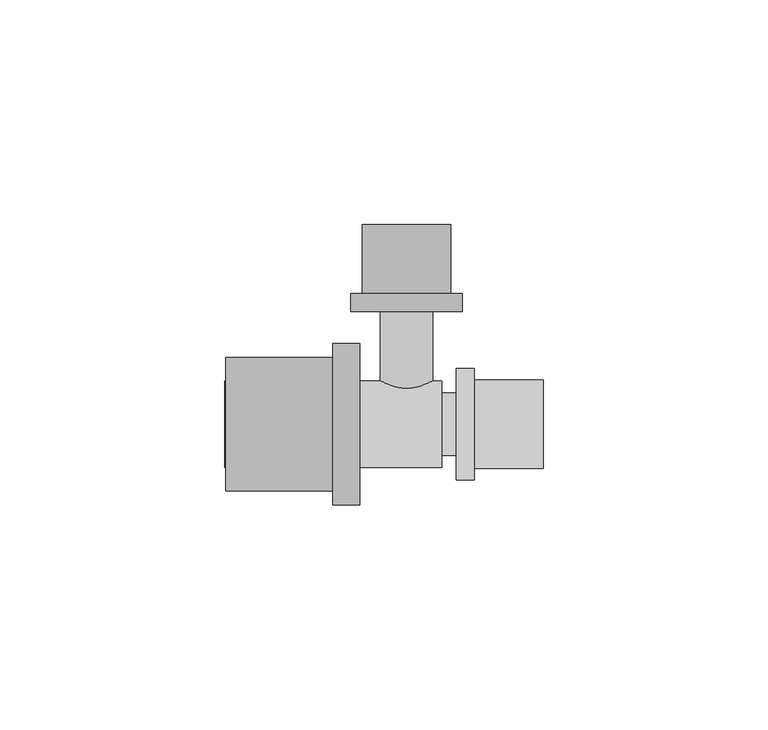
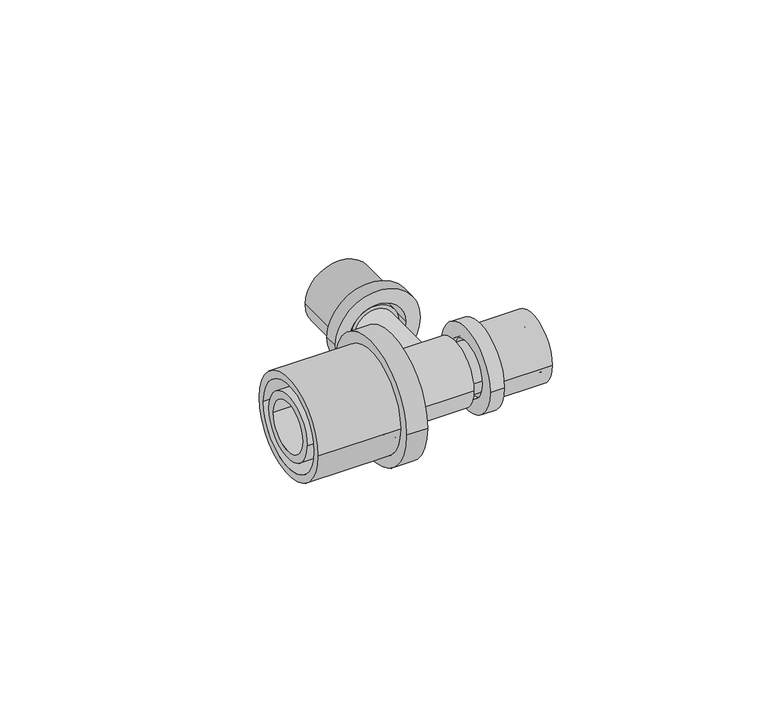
"""IFC4 building model written with IfcOpenShell, lengths in millimetres: pipe fitting geometry, FASTLOC_T-piece_EX+ : FSL T-Piece EX+ AT."""

from ifc_helpers import new_model, si_unit, frame, origin, place, context, project, spatial, polyline, circle_curve, source, transform, mapped, element, save
from ifc_brep_helpers import plane_surface, cylinder_surface, revolved_surface, advanced_brep


def pipe_fitting_8e4805be(model_context):
    return source(origin(), model_context, "Body", "AdvancedBrep", [
        advanced_brep(
        [(15.1, 12.35, 0.0), (15.1, -12.35, 0.0), (11.1, -12.35, 0.0), (11.1, 12.35, 0.0), (30.4, 9.85, 0.0), (30.4, -9.85, 0.0), (15.1, -9.85, 0.0), (15.1, 9.85, 0.0), (11.1, 8.15, 0.0), (11.1, -8.15, 0.0), (30.4, -8.15, 0.0), (30.4, 8.15, 0.0)],
        [
            (0, 1, circle_curve(frame((15.1, 0.0, 0.0), z_axis=(-1.0, 0.0, 0.0), x_axis=(0.0, -1.0, 0.0)), 12.35)),
            (1, 2),
            (2, 3, circle_curve(frame((11.1, 0.0, 0.0), z_axis=(1.0, 0.0, 0.0), x_axis=(0.0, -1.0, 0.0)), 12.35)),
            (3, 0),
            (4, 5, circle_curve(frame((30.4, 0.0, 0.0), z_axis=(-1.0, 0.0, 0.0), x_axis=(0.0, -1.0, 0.0)), 9.85)),
            (5, 6),
            (6, 7, circle_curve(frame((15.1, 0.0, 0.0), z_axis=(1.0, 0.0, 0.0), x_axis=(0.0, -1.0, 0.0)), 9.85)),
            (7, 4),
            (8, 9, circle_curve(frame((11.1, 0.0, 0.0), z_axis=(-1.0, 0.0, 0.0), x_axis=(0.0, -1.0, 0.0)), 8.15)),
            (9, 10),
            (10, 11, circle_curve(frame((30.4, 0.0, 0.0), z_axis=(1.0, 0.0, 0.0), x_axis=(0.0, -1.0, 0.0)), 8.15)),
            (11, 8),
            (1, 0, circle_curve(frame((15.1, 0.0, 0.0), z_axis=(-1.0, 0.0, 0.0), x_axis=(0.0, 1.0, 0.0)), 12.35)),
            (3, 2, circle_curve(frame((11.1, 0.0, 0.0), z_axis=(1.0, 0.0, 0.0), x_axis=(0.0, 1.0, 0.0)), 12.35)),
            (6, 7, circle_curve(frame((15.1, 0.0, 0.0), z_axis=(-1.0, 0.0, 0.0), x_axis=(0.0, 1.0, 0.0)), 9.85)),
            (5, 4, circle_curve(frame((30.4, 0.0, 0.0), z_axis=(-1.0, 0.0, 0.0), x_axis=(0.0, 1.0, 0.0)), 9.85)),
            (10, 11, circle_curve(frame((30.4, 0.0, 0.0), z_axis=(-1.0, 0.0, 0.0), x_axis=(0.0, 1.0, 0.0)), 8.15)),
            (9, 8, circle_curve(frame((11.1, 0.0, 0.0), z_axis=(-1.0, 0.0, 0.0), x_axis=(0.0, 1.0, 0.0)), 8.15)),
        ],
        [
            cylinder_surface(frame((11.1, 0.0, 0.0), z_axis=(1.0, 0.0, 0.0), x_axis=(0.0, -1.0, 0.0)), 12.35),
            cylinder_surface(frame((11.1, 0.0, 0.0), z_axis=(1.0, 0.0, 0.0), x_axis=(0.0, -1.0, 0.0)), 9.85),
            revolved_surface(polyline([(30.4, -8.15, 0.0), (11.1, -8.15, 0.0)]), (11.1, 0.0, 0.0), (1.0, 0.0, 0.0)),
            cylinder_surface(frame((11.1, 0.0, 0.0), z_axis=(1.0, 0.0, 0.0), x_axis=(0.0, 1.0, 0.0)), 12.35),
            plane_surface(frame((15.1, 0.0, 0.0), z_axis=(1.0, 0.0, 0.0), x_axis=(0.0, 1.0, 0.0))),
            cylinder_surface(frame((11.1, 0.0, 0.0), z_axis=(1.0, 0.0, 0.0), x_axis=(0.0, 1.0, 0.0)), 9.85),
            plane_surface(frame((30.4, 0.0, 0.0), z_axis=(1.0, 0.0, 0.0), x_axis=(0.0, 1.0, 0.0))),
            revolved_surface(polyline([(30.4, 8.15, 0.0), (11.1, 8.15, 0.0)]), (11.1, 0.0, 0.0), (1.0, 0.0, 0.0)),
            plane_surface(frame((11.1, 0.0, 0.0), z_axis=(-1.0, 0.0, 0.0), x_axis=(0.0, 1.0, 0.0))),
        ],
        [
            (0, [[1, 2, 3, 4]]),
            (1, [[5, 6, 7, 8]]),
            (2, [[9, 10, 11, 12]]),
            (3, [[13, -4, 14, -2]]),
            (4, [[-13, -1], [15, -7]]),
            (5, [[16, -8, -15, -6]]),
            (6, [[-16, -5], [17, -11]]),
            (7, [[18, -12, -17, -10]]),
            (8, [[-14, -3], [-18, -9]]),
        ],
    ),
        advanced_brep(
        [(-16.4, -18.0, 0.0), (-16.4, 18.0, 0.0), (-10.4, 18.0, 0.0), (-10.4, -18.0, 0.0), (-40.2, -14.85, 0.0), (-40.2, 14.85, 0.0), (-16.4, 14.85, 0.0), (-16.4, -14.85, 0.0), (-10.4, -12.65, 0.0), (-10.4, 12.65, 0.0), (-40.2, 12.65, 0.0), (-40.2, -12.65, 0.0)],
        [
            (0, 1, circle_curve(frame((-16.4, 0.0, 0.0), z_axis=(1.0, 0.0, 0.0), x_axis=(0.0, 1.0, 0.0)), 18.0)),
            (1, 2),
            (2, 3, circle_curve(frame((-10.4, 0.0, 0.0), z_axis=(-1.0, 0.0, 0.0), x_axis=(0.0, 1.0, 0.0)), 18.0)),
            (3, 0),
            (4, 5, circle_curve(frame((-40.2, 0.0, 0.0), z_axis=(1.0, 0.0, 0.0), x_axis=(0.0, 1.0, 0.0)), 14.85)),
            (5, 6),
            (6, 7, circle_curve(frame((-16.4, 0.0, 0.0), z_axis=(-1.0, 0.0, 0.0), x_axis=(0.0, 1.0, 0.0)), 14.85)),
            (7, 4),
            (8, 9, circle_curve(frame((-10.4, 0.0, 0.0), z_axis=(1.0, 0.0, 0.0), x_axis=(0.0, 1.0, 0.0)), 12.65)),
            (9, 10),
            (10, 11, circle_curve(frame((-40.2, 0.0, 0.0), z_axis=(-1.0, 0.0, 0.0), x_axis=(0.0, 1.0, 0.0)), 12.65)),
            (11, 8),
            (1, 0, circle_curve(frame((-16.4, 0.0, 0.0), z_axis=(1.0, 0.0, 0.0), x_axis=(0.0, -1.0, 0.0)), 18.0)),
            (3, 2, circle_curve(frame((-10.4, 0.0, 0.0), z_axis=(-1.0, 0.0, 0.0), x_axis=(0.0, -1.0, 0.0)), 18.0)),
            (6, 7, circle_curve(frame((-16.4, 0.0, 0.0), z_axis=(1.0, 0.0, 0.0), x_axis=(0.0, -1.0, 0.0)), 14.85)),
            (5, 4, circle_curve(frame((-40.2, 0.0, 0.0), z_axis=(1.0, 0.0, 0.0), x_axis=(0.0, -1.0, 0.0)), 14.85)),
            (10, 11, circle_curve(frame((-40.2, 0.0, 0.0), z_axis=(1.0, 0.0, 0.0), x_axis=(0.0, -1.0, 0.0)), 12.65)),
            (9, 8, circle_curve(frame((-10.4, 0.0, 0.0), z_axis=(1.0, 0.0, 0.0), x_axis=(0.0, -1.0, 0.0)), 12.65)),
        ],
        [
            cylinder_surface(frame((-10.4, 0.0, 0.0), z_axis=(-1.0, 0.0, 0.0), x_axis=(0.0, 1.0, 0.0)), 18.0),
            cylinder_surface(frame((-10.4, 0.0, 0.0), z_axis=(-1.0, 0.0, 0.0), x_axis=(0.0, 1.0, 0.0)), 14.85),
            revolved_surface(polyline([(-40.2, 12.65, 0.0), (-10.4, 12.65, 0.0)]), (-10.4, 0.0, 0.0), (-1.0, 0.0, 0.0)),
            cylinder_surface(frame((-10.4, 0.0, 0.0), z_axis=(-1.0, 0.0, 0.0), x_axis=(0.0, -1.0, 0.0)), 18.0),
            plane_surface(frame((-16.4, 0.0, 0.0), z_axis=(-1.0, 0.0, 0.0), x_axis=(0.0, -1.0, 0.0))),
            cylinder_surface(frame((-10.4, 0.0, 0.0), z_axis=(-1.0, 0.0, 0.0), x_axis=(0.0, -1.0, 0.0)), 14.85),
            plane_surface(frame((-40.2, 0.0, 0.0), z_axis=(-1.0, 0.0, 0.0), x_axis=(0.0, -1.0, 0.0))),
            revolved_surface(polyline([(-40.2, -12.65, 0.0), (-10.4, -12.65, 0.0)]), (-10.4, 0.0, 0.0), (-1.0, 0.0, 0.0)),
            plane_surface(frame((-10.4, 0.0, 0.0), z_axis=(1.0, 0.0, 0.0), x_axis=(0.0, -1.0, 0.0))),
        ],
        [
            (0, [[1, 2, 3, 4]]),
            (1, [[5, 6, 7, 8]]),
            (2, [[9, 10, 11, 12]]),
            (3, [[13, -4, 14, -2]]),
            (4, [[-13, -1], [15, -7]]),
            (5, [[16, -8, -15, -6]]),
            (6, [[-16, -5], [17, -11]]),
            (7, [[18, -12, -17, -10]]),
            (8, [[-14, -3], [-18, -9]]),
        ],
    ),
        advanced_brep(
        [(-12.35, 29.1, 0.0), (12.35, 29.1, 0.0), (12.35, 25.1, 0.0), (-12.35, 25.1, 0.0), (-9.85, 44.4, 0.0), (9.85, 44.4, 0.0), (9.85, 29.1, 0.0), (-9.85, 29.1, 0.0), (-8.15, 25.1, 0.0), (8.15, 25.1, 0.0), (8.15, 44.4, 0.0), (-8.15, 44.4, 0.0)],
        [
            (0, 1, circle_curve(frame((0.0, 29.1, 0.0), z_axis=(0.0, -1.0, 0.0), x_axis=(1.0, 0.0, 0.0)), 12.35)),
            (1, 2),
            (2, 3, circle_curve(frame((0.0, 25.1, 0.0), z_axis=(0.0, 1.0, 0.0), x_axis=(1.0, 0.0, 0.0)), 12.35)),
            (3, 0),
            (4, 5, circle_curve(frame((0.0, 44.4, 0.0), z_axis=(0.0, -1.0, 0.0), x_axis=(1.0, 0.0, 0.0)), 9.85)),
            (5, 6),
            (6, 7, circle_curve(frame((0.0, 29.1, 0.0), z_axis=(0.0, 1.0, 0.0), x_axis=(1.0, 0.0, 0.0)), 9.85)),
            (7, 4),
            (8, 9, circle_curve(frame((0.0, 25.1, 0.0), z_axis=(0.0, -1.0, 0.0), x_axis=(1.0, 0.0, 0.0)), 8.15)),
            (9, 10),
            (10, 11, circle_curve(frame((0.0, 44.4, 0.0), z_axis=(0.0, 1.0, 0.0), x_axis=(1.0, 0.0, 0.0)), 8.15)),
            (11, 8),
            (1, 0, circle_curve(frame((0.0, 29.1, 0.0), z_axis=(0.0, -1.0, 0.0), x_axis=(-1.0, 0.0, 0.0)), 12.35)),
            (3, 2, circle_curve(frame((0.0, 25.1, 0.0), z_axis=(0.0, 1.0, 0.0), x_axis=(-1.0, 0.0, 0.0)), 12.35)),
            (6, 7, circle_curve(frame((0.0, 29.1, 0.0), z_axis=(0.0, -1.0, 0.0), x_axis=(-1.0, 0.0, 0.0)), 9.85)),
            (5, 4, circle_curve(frame((0.0, 44.4, 0.0), z_axis=(0.0, -1.0, 0.0), x_axis=(-1.0, 0.0, 0.0)), 9.85)),
            (10, 11, circle_curve(frame((0.0, 44.4, 0.0), z_axis=(0.0, -1.0, 0.0), x_axis=(-1.0, 0.0, 0.0)), 8.15)),
            (9, 8, circle_curve(frame((0.0, 25.1, 0.0), z_axis=(0.0, -1.0, 0.0), x_axis=(-1.0, 0.0, 0.0)), 8.15)),
        ],
        [
            cylinder_surface(frame((0.0, 25.1, 0.0), z_axis=(0.0, 1.0, 0.0), x_axis=(1.0, 0.0, 0.0)), 12.35),
            cylinder_surface(frame((0.0, 25.1, 0.0), z_axis=(0.0, 1.0, 0.0), x_axis=(1.0, 0.0, 0.0)), 9.85),
            revolved_surface(polyline([(8.15, 44.4, 0.0), (8.15, 25.1, 0.0)]), (0.0, 25.1, 0.0), (0.0, 1.0, 0.0)),
            cylinder_surface(frame((0.0, 25.1, 0.0), z_axis=(0.0, 1.0, 0.0), x_axis=(-1.0, 0.0, 0.0)), 12.35),
            plane_surface(frame((0.0, 29.1, 0.0), z_axis=(0.0, 1.0, 0.0), x_axis=(-1.0, 0.0, 0.0))),
            cylinder_surface(frame((0.0, 25.1, 0.0), z_axis=(0.0, 1.0, 0.0), x_axis=(-1.0, 0.0, 0.0)), 9.85),
            plane_surface(frame((0.0, 44.4, 0.0), z_axis=(0.0, 1.0, 0.0), x_axis=(-1.0, 0.0, 0.0))),
            revolved_surface(polyline([(-8.15, 44.4, 0.0), (-8.15, 25.1, 0.0)]), (0.0, 25.1, 0.0), (0.0, 1.0, 0.0)),
            plane_surface(frame((0.0, 25.1, 0.0), z_axis=(0.0, -1.0, 0.0), x_axis=(-1.0, 0.0, 0.0))),
        ],
        [
            (0, [[1, 2, 3, 4]]),
            (1, [[5, 6, 7, 8]]),
            (2, [[9, 10, 11, 12]]),
            (3, [[13, -4, 14, -2]]),
            (4, [[-13, -1], [15, -7]]),
            (5, [[16, -8, -15, -6]]),
            (6, [[-16, -5], [17, -11]]),
            (7, [[18, -12, -17, -10]]),
            (8, [[-14, -3], [-18, -9]]),
        ],
    ),
        advanced_brep(
        [(12.39, 6.95, 0.0), (12.39, -6.95, 0.0), (7.85, -6.95, 0.0), (7.85, 6.95, 0.0), (15.1, 8.05, 0.0), (15.1, -8.05, 0.0), (12.39, -8.05, 0.0), (12.39, 8.05, 0.0), (30.1, 6.95, 0.0), (30.1, -6.95, 0.0), (15.1, -6.95, 0.0), (15.1, 6.95, 0.0), (6.0, 5.1, 0.0), (6.0, -5.1, 0.0), (30.1, -5.1, 0.0), (30.1, 5.1, 0.0), (-40.4, 7.35, 0.0), (-40.4, -7.35, 0.0), (6.0, -7.35, 0.0), (6.0, 7.35, 0.0), (-16.4, 9.6, 0.0), (-16.4, -9.6, 0.0), (-40.4, -9.6, 0.0), (-40.4, 9.6, 0.0), (-13.6, 11.1, 0.0), (-13.6, -11.1, 0.0), (-16.4, -11.1, 0.0), (-16.4, 11.1, 0.0), (7.85, 9.6, 0.0), (7.85, -9.6, 0.0), (-13.6, -9.6, 0.0), (-13.6, 9.6, 0.0)],
        [
            (0, 1, circle_curve(frame((12.39, 0.0, 0.0), z_axis=(-1.0, 0.0, 0.0), x_axis=(0.0, -1.0, 0.0)), 6.95)),
            (1, 2),
            (2, 3, circle_curve(frame((7.85, 0.0, 0.0), z_axis=(1.0, 0.0, 0.0), x_axis=(0.0, -1.0, 0.0)), 6.95)),
            (3, 0),
            (4, 5, circle_curve(frame((15.1, 0.0, 0.0), z_axis=(-1.0, 0.0, 0.0), x_axis=(0.0, -1.0, 0.0)), 8.05)),
            (5, 6),
            (6, 7, circle_curve(frame((12.39, 0.0, 0.0), z_axis=(1.0, 0.0, 0.0), x_axis=(0.0, -1.0, 0.0)), 8.05)),
            (7, 4),
            (8, 9, circle_curve(frame((30.1, 0.0, 0.0), z_axis=(-1.0, 0.0, 0.0), x_axis=(0.0, -1.0, 0.0)), 6.95)),
            (9, 10),
            (10, 11, circle_curve(frame((15.1, 0.0, 0.0), z_axis=(1.0, 0.0, 0.0), x_axis=(0.0, -1.0, 0.0)), 6.95)),
            (11, 8),
            (12, 13, circle_curve(frame((6.0, 0.0, 0.0), z_axis=(-1.0, 0.0, 0.0), x_axis=(0.0, -1.0, 0.0)), 5.1)),
            (13, 14),
            (14, 15, circle_curve(frame((30.1, 0.0, 0.0), z_axis=(1.0, 0.0, 0.0), x_axis=(0.0, -1.0, 0.0)), 5.1)),
            (15, 12),
            (16, 17, circle_curve(frame((-40.4, 0.0, 0.0), z_axis=(-1.0, 0.0, 0.0), x_axis=(0.0, -1.0, 0.0)), 7.35)),
            (17, 18),
            (18, 19, circle_curve(frame((6.0, 0.0, 0.0), z_axis=(1.0, 0.0, 0.0), x_axis=(0.0, -1.0, 0.0)), 7.35)),
            (19, 16),
            (20, 21, circle_curve(frame((-16.4, 0.0, 0.0), z_axis=(-1.0, 0.0, 0.0), x_axis=(0.0, -1.0, 0.0)), 9.6)),
            (21, 22),
            (22, 23, circle_curve(frame((-40.4, 0.0, 0.0), z_axis=(1.0, 0.0, 0.0), x_axis=(0.0, -1.0, 0.0)), 9.6)),
            (23, 20),
            (24, 25, circle_curve(frame((-13.6, 0.0, 0.0), z_axis=(-1.0, 0.0, 0.0), x_axis=(0.0, -1.0, 0.0)), 11.1)),
            (25, 26),
            (26, 27, circle_curve(frame((-16.4, 0.0, 0.0), z_axis=(1.0, 0.0, 0.0), x_axis=(0.0, -1.0, 0.0)), 11.1)),
            (27, 24),
            (28, 29, circle_curve(frame((7.85, 0.0, 0.0), z_axis=(-1.0, 0.0, 0.0), x_axis=(0.0, -1.0, 0.0)), 9.6)),
            (29, 30),
            (30, 31, circle_curve(frame((-13.6, 0.0, 0.0), z_axis=(1.0, 0.0, 0.0), x_axis=(0.0, -1.0, 0.0)), 9.6)),
            (31, 28),
            (28, 29, circle_curve(frame((7.85, 0.0, 0.0), z_axis=(1.0, 0.0, 0.0), x_axis=(0.0, 1.0, 0.0)), 9.6)),
            (2, 3, circle_curve(frame((7.85, 0.0, 0.0), z_axis=(-1.0, 0.0, 0.0), x_axis=(0.0, 1.0, 0.0)), 6.95)),
            (1, 0, circle_curve(frame((12.39, 0.0, 0.0), z_axis=(-1.0, 0.0, 0.0), x_axis=(0.0, 1.0, 0.0)), 6.95)),
            (6, 7, circle_curve(frame((12.39, 0.0, 0.0), z_axis=(-1.0, 0.0, 0.0), x_axis=(0.0, 1.0, 0.0)), 8.05)),
            (5, 4, circle_curve(frame((15.1, 0.0, 0.0), z_axis=(-1.0, 0.0, 0.0), x_axis=(0.0, 1.0, 0.0)), 8.05)),
            (10, 11, circle_curve(frame((15.1, 0.0, 0.0), z_axis=(-1.0, 0.0, 0.0), x_axis=(0.0, 1.0, 0.0)), 6.95)),
            (9, 8, circle_curve(frame((30.1, 0.0, 0.0), z_axis=(-1.0, 0.0, 0.0), x_axis=(0.0, 1.0, 0.0)), 6.95)),
            (14, 15, circle_curve(frame((30.1, 0.0, 0.0), z_axis=(-1.0, 0.0, 0.0), x_axis=(0.0, 1.0, 0.0)), 5.1)),
            (13, 12, circle_curve(frame((6.0, 0.0, 0.0), z_axis=(-1.0, 0.0, 0.0), x_axis=(0.0, 1.0, 0.0)), 5.1)),
            (18, 19, circle_curve(frame((6.0, 0.0, 0.0), z_axis=(-1.0, 0.0, 0.0), x_axis=(0.0, 1.0, 0.0)), 7.35)),
            (17, 16, circle_curve(frame((-40.4, 0.0, 0.0), z_axis=(-1.0, 0.0, 0.0), x_axis=(0.0, 1.0, 0.0)), 7.35)),
            (22, 23, circle_curve(frame((-40.4, 0.0, 0.0), z_axis=(-1.0, 0.0, 0.0), x_axis=(0.0, 1.0, 0.0)), 9.6)),
            (21, 20, circle_curve(frame((-16.4, 0.0, 0.0), z_axis=(-1.0, 0.0, 0.0), x_axis=(0.0, 1.0, 0.0)), 9.6)),
            (26, 27, circle_curve(frame((-16.4, 0.0, 0.0), z_axis=(-1.0, 0.0, 0.0), x_axis=(0.0, 1.0, 0.0)), 11.1)),
            (25, 24, circle_curve(frame((-13.6, 0.0, 0.0), z_axis=(-1.0, 0.0, 0.0), x_axis=(0.0, 1.0, 0.0)), 11.1)),
            (30, 31, circle_curve(frame((-13.6, 0.0, 0.0), z_axis=(-1.0, 0.0, 0.0), x_axis=(0.0, 1.0, 0.0)), 9.6)),
        ],
        [
            cylinder_surface(frame((0.0, 0.0, 0.0), z_axis=(1.0, 0.0, 0.0), x_axis=(0.0, -1.0, 0.0)), 6.95),
            cylinder_surface(frame((0.0, 0.0, 0.0), z_axis=(1.0, 0.0, 0.0), x_axis=(0.0, -1.0, 0.0)), 8.05),
            revolved_surface(polyline([(30.1, -5.1, 0.0), (6.0, -5.1, 0.0)]), (0.0, 0.0, 0.0), (1.0, 0.0, 0.0)),
            revolved_surface(polyline([(6.0, -7.35, 0.0), (-40.4, -7.35, 0.0)]), (0.0, 0.0, 0.0), (1.0, 0.0, 0.0)),
            cylinder_surface(frame((0.0, 0.0, 0.0), z_axis=(1.0, 0.0, 0.0), x_axis=(0.0, -1.0, 0.0)), 9.6),
            cylinder_surface(frame((0.0, 0.0, 0.0), z_axis=(1.0, 0.0, 0.0), x_axis=(0.0, -1.0, 0.0)), 11.1),
            plane_surface(frame((7.85, 0.0, 0.0), z_axis=(1.0, 0.0, 0.0), x_axis=(0.0, 1.0, 0.0))),
            cylinder_surface(frame((0.0, 0.0, 0.0), z_axis=(1.0, 0.0, 0.0), x_axis=(0.0, 1.0, 0.0)), 6.95),
            plane_surface(frame((12.39, 0.0, 0.0), z_axis=(-1.0, 0.0, 0.0), x_axis=(0.0, 1.0, 0.0))),
            cylinder_surface(frame((0.0, 0.0, 0.0), z_axis=(1.0, 0.0, 0.0), x_axis=(0.0, 1.0, 0.0)), 8.05),
            plane_surface(frame((15.1, 0.0, 0.0), z_axis=(1.0, 0.0, 0.0), x_axis=(0.0, 1.0, 0.0))),
            plane_surface(frame((30.1, 0.0, 0.0), z_axis=(1.0, 0.0, 0.0), x_axis=(0.0, 1.0, 0.0))),
            revolved_surface(polyline([(30.1, 5.1, 0.0), (6.0, 5.1, 0.0)]), (0.0, 0.0, 0.0), (1.0, 0.0, 0.0)),
            plane_surface(frame((6.0, 0.0, 0.0), z_axis=(-1.0, 0.0, 0.0), x_axis=(0.0, 1.0, 0.0))),
            revolved_surface(polyline([(6.0, 7.35, 0.0), (-40.4, 7.35, 0.0)]), (0.0, 0.0, 0.0), (1.0, 0.0, 0.0)),
            plane_surface(frame((-40.4, 0.0, 0.0), z_axis=(-1.0, 0.0, 0.0), x_axis=(0.0, 1.0, 0.0))),
            cylinder_surface(frame((0.0, 0.0, 0.0), z_axis=(1.0, 0.0, 0.0), x_axis=(0.0, 1.0, 0.0)), 9.6),
            plane_surface(frame((-16.4, 0.0, 0.0), z_axis=(-1.0, 0.0, 0.0), x_axis=(0.0, 1.0, 0.0))),
            cylinder_surface(frame((0.0, 0.0, 0.0), z_axis=(1.0, 0.0, 0.0), x_axis=(0.0, 1.0, 0.0)), 11.1),
            plane_surface(frame((-13.6, 0.0, 0.0), z_axis=(1.0, 0.0, 0.0), x_axis=(0.0, 1.0, 0.0))),
        ],
        [
            (0, [[1, 2, 3, 4]]),
            (1, [[5, 6, 7, 8]]),
            (0, [[9, 10, 11, 12]]),
            (2, [[13, 14, 15, 16]]),
            (3, [[17, 18, 19, 20]]),
            (4, [[21, 22, 23, 24]]),
            (5, [[25, 26, 27, 28]]),
            (4, [[29, 30, 31, 32]]),
            (6, [[33, -29], [34, -3]]),
            (7, [[35, -4, -34, -2]]),
            (8, [[36, -7], [-35, -1]]),
            (9, [[37, -8, -36, -6]]),
            (10, [[-37, -5], [38, -11]]),
            (7, [[39, -12, -38, -10]]),
            (11, [[-39, -9], [40, -15]]),
            (12, [[41, -16, -40, -14]]),
            (13, [[42, -19], [-41, -13]]),
            (14, [[43, -20, -42, -18]]),
            (15, [[44, -23], [-43, -17]]),
            (16, [[45, -24, -44, -22]]),
            (17, [[46, -27], [-45, -21]]),
            (18, [[47, -28, -46, -26]]),
            (19, [[-47, -25], [48, -31]]),
            (16, [[-33, -32, -48, -30]]),
        ],
    ),
        advanced_brep(
        [(3.95, 44.1, 0.0), (-3.95, 44.1, 0.0), (-3.95, 0.0, 0.0), (3.95, 0.0, 0.0), (5.8, 0.0, 0.0), (-5.8, 0.0, 0.0), (-5.8, 26.39, 0.0), (5.8, 26.39, 0.0), (6.9, 26.39, 0.0), (-6.9, 26.39, 0.0), (-6.9, 29.1, 0.0), (6.9, 29.1, 0.0), (5.8, 29.1, 0.0), (-5.8, 29.1, 0.0), (-5.8, 44.1, 0.0), (5.8, 44.1, 0.0)],
        [
            (0, 1, circle_curve(frame((0.0, 44.1, 0.0), z_axis=(0.0, 1.0, 0.0), x_axis=(-1.0, 0.0, 0.0)), 3.95)),
            (1, 2),
            (2, 3, circle_curve(frame((0.0, 0.0, 0.0), z_axis=(0.0, -1.0, 0.0), x_axis=(-1.0, 0.0, 0.0)), 3.95)),
            (3, 0),
            (4, 5, circle_curve(frame((0.0, 0.0, 0.0), z_axis=(0.0, 1.0, 0.0), x_axis=(-1.0, 0.0, 0.0)), 5.8)),
            (5, 6),
            (6, 7, circle_curve(frame((0.0, 26.39, 0.0), z_axis=(0.0, -1.0, 0.0), x_axis=(-1.0, 0.0, 0.0)), 5.8)),
            (7, 4),
            (8, 9, circle_curve(frame((0.0, 26.39, 0.0), z_axis=(0.0, 1.0, 0.0), x_axis=(-1.0, 0.0, 0.0)), 6.9)),
            (9, 10),
            (10, 11, circle_curve(frame((0.0, 29.1, 0.0), z_axis=(0.0, -1.0, 0.0), x_axis=(-1.0, 0.0, 0.0)), 6.9)),
            (11, 8),
            (12, 13, circle_curve(frame((0.0, 29.1, 0.0), z_axis=(0.0, 1.0, 0.0), x_axis=(-1.0, 0.0, 0.0)), 5.8)),
            (13, 14),
            (14, 15, circle_curve(frame((0.0, 44.1, 0.0), z_axis=(0.0, -1.0, 0.0), x_axis=(-1.0, 0.0, 0.0)), 5.8)),
            (15, 12),
            (1, 0, circle_curve(frame((0.0, 44.1, 0.0), z_axis=(0.0, 1.0, 0.0), x_axis=(1.0, 0.0, 0.0)), 3.95)),
            (3, 2, circle_curve(frame((0.0, 0.0, 0.0), z_axis=(0.0, -1.0, 0.0), x_axis=(1.0, 0.0, 0.0)), 3.95)),
            (4, 5, circle_curve(frame((0.0, 0.0, 0.0), z_axis=(0.0, -1.0, 0.0), x_axis=(1.0, 0.0, 0.0)), 5.8)),
            (7, 6, circle_curve(frame((0.0, 26.39, 0.0), z_axis=(0.0, -1.0, 0.0), x_axis=(1.0, 0.0, 0.0)), 5.8)),
            (8, 9, circle_curve(frame((0.0, 26.39, 0.0), z_axis=(0.0, -1.0, 0.0), x_axis=(1.0, 0.0, 0.0)), 6.9)),
            (11, 10, circle_curve(frame((0.0, 29.1, 0.0), z_axis=(0.0, -1.0, 0.0), x_axis=(1.0, 0.0, 0.0)), 6.9)),
            (12, 13, circle_curve(frame((0.0, 29.1, 0.0), z_axis=(0.0, -1.0, 0.0), x_axis=(1.0, 0.0, 0.0)), 5.8)),
            (15, 14, circle_curve(frame((0.0, 44.1, 0.0), z_axis=(0.0, -1.0, 0.0), x_axis=(1.0, 0.0, 0.0)), 5.8)),
        ],
        [
            revolved_surface(polyline([(-3.95, 0.0, 0.0), (-3.95, 44.1, 0.0)]), (0.0, 0.0, 0.0), (0.0, -1.0, 0.0)),
            cylinder_surface(frame((0.0, 0.0, 0.0), z_axis=(0.0, -1.0, 0.0), x_axis=(-1.0, 0.0, 0.0)), 5.8),
            cylinder_surface(frame((0.0, 0.0, 0.0), z_axis=(0.0, -1.0, 0.0), x_axis=(-1.0, 0.0, 0.0)), 6.9),
            revolved_surface(polyline([(3.95, 0.0, 0.0), (3.95, 44.1, 0.0)]), (0.0, 0.0, 0.0), (0.0, -1.0, 0.0)),
            plane_surface(frame((0.0, 0.0, 0.0), z_axis=(0.0, -1.0, 0.0), x_axis=(1.0, 0.0, 0.0))),
            cylinder_surface(frame((0.0, 0.0, 0.0), z_axis=(0.0, -1.0, 0.0), x_axis=(1.0, 0.0, 0.0)), 5.8),
            plane_surface(frame((0.0, 26.39, 0.0), z_axis=(0.0, -1.0, 0.0), x_axis=(1.0, 0.0, 0.0))),
            cylinder_surface(frame((0.0, 0.0, 0.0), z_axis=(0.0, -1.0, 0.0), x_axis=(1.0, 0.0, 0.0)), 6.9),
            plane_surface(frame((0.0, 29.1, 0.0), z_axis=(0.0, 1.0, 0.0), x_axis=(1.0, 0.0, 0.0))),
            plane_surface(frame((0.0, 44.1, 0.0), z_axis=(0.0, 1.0, 0.0), x_axis=(1.0, 0.0, 0.0))),
        ],
        [
            (0, [[1, 2, 3, 4]]),
            (1, [[5, 6, 7, 8]]),
            (2, [[9, 10, 11, 12]]),
            (1, [[13, 14, 15, 16]]),
            (3, [[17, -4, 18, -2]]),
            (4, [[19, -5], [-18, -3]]),
            (5, [[-19, -8, 20, -6]]),
            (6, [[21, -9], [-20, -7]]),
            (7, [[-21, -12, 22, -10]]),
            (8, [[-22, -11], [23, -13]]),
            (5, [[-23, -16, 24, -14]]),
            (9, [[-24, -15], [-17, -1]]),
        ],
    ),
    ])


if __name__ == "__main__":
    model = new_model("IFC4")
    model_context = context("Model", 3, world=origin())
    ifc_project = project(units=[si_unit("LENGTHUNIT", "METRE", prefix="MILLI")], contexts=[model_context])
    site = spatial("IfcSite", under=ifc_project)
    building = spatial("IfcBuilding", under=site)
    placement = place(None, origin())
    pipe_fitting_shape = pipe_fitting_8e4805be(model_context)
    element("IfcPipeFitting", 1, ObjectType="FASTLOC_T-piece_EX+ : FSL T-Piece EX+ AT", at=placement, inside=building, context=model_context, shape_type="MappedRepresentation", body=[
        mapped(pipe_fitting_shape, transform((0.0, 0.0, 0.0), x_axis=(1.0, 0.0, 0.0), y_axis=(0.0, 1.0, 0.0), z_axis=(0.0, 0.0, 1.0))),
    ])
    save(model, "model.ifc")
